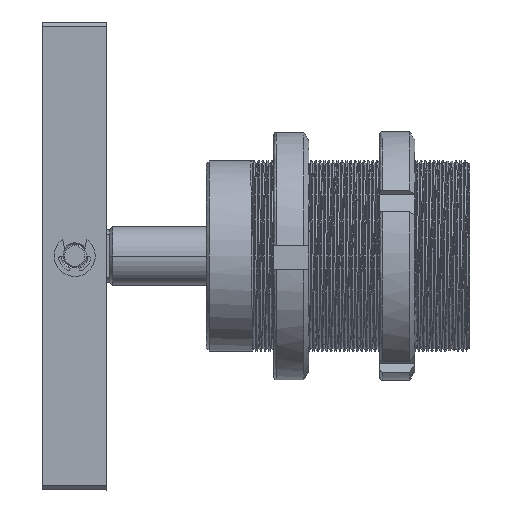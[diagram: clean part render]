
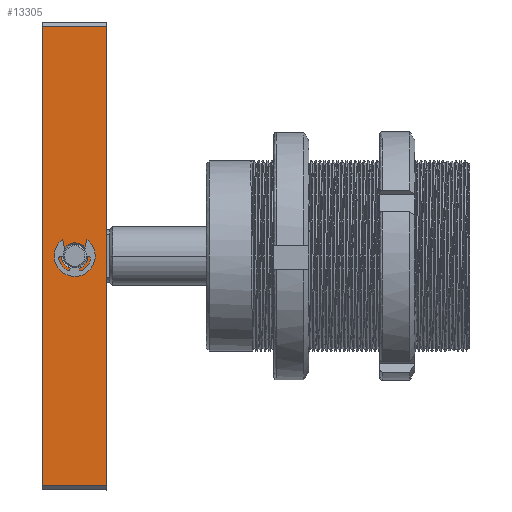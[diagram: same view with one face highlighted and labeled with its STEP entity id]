
A CAD part, left-side view. The second image highlights one B-rep face of the part: STEP entity #13305.
In plain terms, the highlighted planar face has unit normal (-1, 0, 0) as drawn and (0, 1, 0) by its records, which use the part's own axes.
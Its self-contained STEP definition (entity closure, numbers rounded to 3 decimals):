
#2161 = CIRCLE ( 'NONE', #9599, 4.5 ) ;
#2882 = ORIENTED_EDGE ( 'NONE', *, *, #51990, .F. ) ;
#3654 = DIRECTION ( 'NONE',  ( -1., 0., 0. ) ) ;
#4002 = FACE_OUTER_BOUND ( 'NONE', #18365, .T. ) ;
#4204 = ORIENTED_EDGE ( 'NONE', *, *, #35285, .F. ) ;
#4583 = CARTESIAN_POINT ( 'NONE',  ( -14120.07, 1885.193, 22. ) ) ;
#4781 = CARTESIAN_POINT ( 'NONE',  ( -14198.57, 1885.193, 11. ) ) ;
#8001 = PLANE ( 'NONE',  #34290 ) ;
#8713 = VECTOR ( 'NONE', #35318, 1000. ) ;
#8982 = VERTEX_POINT ( 'NONE', #33045 ) ;
#9599 = AXIS2_PLACEMENT_3D ( 'NONE', #44459, #11348, #49997 ) ;
#10090 = DIRECTION ( 'NONE',  ( 0., 0., 1. ) ) ;
#10294 = DIRECTION ( 'NONE',  ( 0., 0., 1. ) ) ;
#10313 = VERTEX_POINT ( 'NONE', #25954 ) ;
#11348 = DIRECTION ( 'NONE',  ( 0., 1., 0. ) ) ;
#13305 = ADVANCED_FACE ( 'NONE', ( #17884, #4002 ), #8001, .F. ) ;
#15199 = LINE ( 'NONE', #4583, #26476 ) ;
#16594 = DIRECTION ( 'NONE',  ( 0., 0., 1. ) ) ;
#17242 = VERTEX_POINT ( 'NONE', #39564 ) ;
#17884 = FACE_BOUND ( 'NONE', #35296, .T. ) ;
#18365 = EDGE_LOOP ( 'NONE', ( #59480, #40391, #27648, #55495 ) ) ;
#21716 = VECTOR ( 'NONE', #3654, 1000. ) ;
#21788 = LINE ( 'NONE', #44199, #23558 ) ;
#23558 = VECTOR ( 'NONE', #16594, 1000. ) ;
#25330 = CARTESIAN_POINT ( 'NONE',  ( -14277.07, 1885.193, 22. ) ) ;
#25954 = CARTESIAN_POINT ( 'NONE',  ( -14198.57, 1885.193, 15.5 ) ) ;
#26476 = VECTOR ( 'NONE', #10090, 1000. ) ;
#27648 = ORIENTED_EDGE ( 'NONE', *, *, #60227, .F. ) ;
#29760 = CARTESIAN_POINT ( 'NONE',  ( -14118.57, 1885.193, 22. ) ) ;
#30888 = DIRECTION ( 'NONE',  ( 1., 0., 0. ) ) ;
#31638 = EDGE_CURVE ( 'NONE', #63468, #17242, #21788, .T. ) ;
#33045 = CARTESIAN_POINT ( 'NONE',  ( -14120.07, 1885.193, 22. ) ) ;
#34290 = AXIS2_PLACEMENT_3D ( 'NONE', #25330, #63972, #30888 ) ;
#35285 = EDGE_CURVE ( 'NONE', #10313, #39292, #2161, .T. ) ;
#35296 = EDGE_LOOP ( 'NONE', ( #4204, #2882 ) ) ;
#35318 = DIRECTION ( 'NONE',  ( -1., 0., 0. ) ) ;
#35577 = VERTEX_POINT ( 'NONE', #36391 ) ;
#36371 = LINE ( 'NONE', #29760, #8713 ) ;
#36391 = CARTESIAN_POINT ( 'NONE',  ( -14120.07, 1885.193, 0. ) ) ;
#36441 = LINE ( 'NONE', #36697, #21716 ) ;
#36697 = CARTESIAN_POINT ( 'NONE',  ( -14118.57, 1885.193, 0. ) ) ;
#39292 = VERTEX_POINT ( 'NONE', #48590 ) ;
#39564 = CARTESIAN_POINT ( 'NONE',  ( -14277.07, 1885.193, 22. ) ) ;
#40391 = ORIENTED_EDGE ( 'NONE', *, *, #31638, .T. ) ;
#43391 = DIRECTION ( 'NONE',  ( 0., 1., 0. ) ) ;
#44199 = CARTESIAN_POINT ( 'NONE',  ( -14277.07, 1885.193, 22. ) ) ;
#44459 = CARTESIAN_POINT ( 'NONE',  ( -14198.57, 1885.193, 11. ) ) ;
#48590 = CARTESIAN_POINT ( 'NONE',  ( -14198.57, 1885.193, 6.5 ) ) ;
#49997 = DIRECTION ( 'NONE',  ( 0., 0., 1. ) ) ;
#51990 = EDGE_CURVE ( 'NONE', #39292, #10313, #70508, .T. ) ;
#55495 = ORIENTED_EDGE ( 'NONE', *, *, #71323, .F. ) ;
#59054 = EDGE_CURVE ( 'NONE', #35577, #63468, #36441, .T. ) ;
#59480 = ORIENTED_EDGE ( 'NONE', *, *, #59054, .T. ) ;
#60227 = EDGE_CURVE ( 'NONE', #8982, #17242, #36371, .T. ) ;
#63468 = VERTEX_POINT ( 'NONE', #68446 ) ;
#63972 = DIRECTION ( 'NONE',  ( 0., -1., 0. ) ) ;
#67388 = AXIS2_PLACEMENT_3D ( 'NONE', #4781, #43391, #10294 ) ;
#68446 = CARTESIAN_POINT ( 'NONE',  ( -14277.07, 1885.193, 0. ) ) ;
#70508 = CIRCLE ( 'NONE', #67388, 4.5 ) ;
#71323 = EDGE_CURVE ( 'NONE', #35577, #8982, #15199, .T. ) ;
